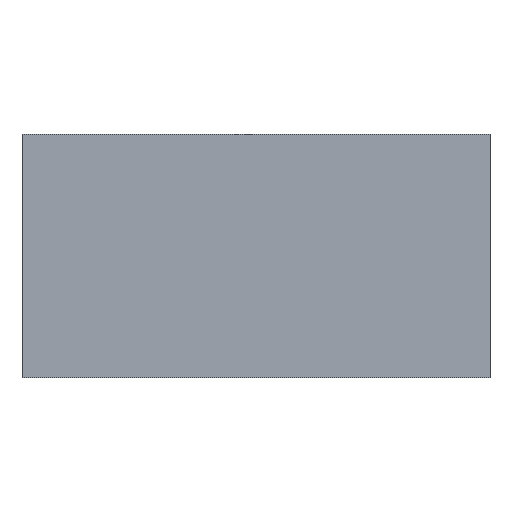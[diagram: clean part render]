
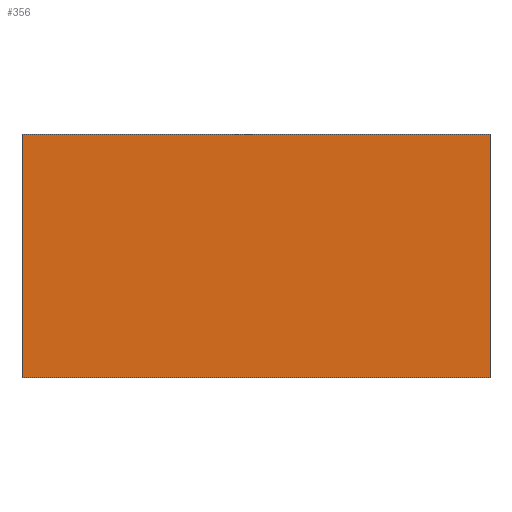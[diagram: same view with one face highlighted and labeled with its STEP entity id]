
A CAD part, top view. The second image highlights one B-rep face of the part: STEP entity #356.
In plain terms, the highlighted planar face has unit normal (0, 0, 1).
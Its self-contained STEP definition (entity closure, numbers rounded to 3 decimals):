
#42 = VERTEX_POINT('',#43);
#43 = CARTESIAN_POINT('',(0.,0.,0.6));
#50 = PLANE('',#51);
#51 = AXIS2_PLACEMENT_3D('',#52,#53,#54);
#52 = CARTESIAN_POINT('',(0.,0.,0.));
#53 = DIRECTION('',(1.,0.,-0.));
#54 = DIRECTION('',(0.,0.,1.));
#62 = PLANE('',#63);
#63 = AXIS2_PLACEMENT_3D('',#64,#65,#66);
#64 = CARTESIAN_POINT('',(0.,0.,0.));
#65 = DIRECTION('',(-0.,1.,0.));
#66 = DIRECTION('',(0.,0.,1.));
#103 = VERTEX_POINT('',#104);
#104 = CARTESIAN_POINT('',(0.,12.3,0.6));
#118 = PLANE('',#119);
#119 = AXIS2_PLACEMENT_3D('',#120,#121,#122);
#120 = CARTESIAN_POINT('',(0.,12.3,0.));
#121 = DIRECTION('',(-0.,1.,0.));
#122 = DIRECTION('',(0.,0.,1.));
#130 = EDGE_CURVE('',#42,#103,#131,.T.);
#131 = SURFACE_CURVE('',#132,(#136,#143),.PCURVE_S1.);
#132 = LINE('',#133,#134);
#133 = CARTESIAN_POINT('',(0.,0.,0.6));
#134 = VECTOR('',#135,1.);
#135 = DIRECTION('',(-0.,1.,0.));
#136 = PCURVE('',#50,#137);
#137 = DEFINITIONAL_REPRESENTATION('',(#138),#142);
#138 = LINE('',#139,#140);
#139 = CARTESIAN_POINT('',(0.6,0.));
#140 = VECTOR('',#141,1.);
#141 = DIRECTION('',(0.,-1.));
#142 = ( GEOMETRIC_REPRESENTATION_CONTEXT(2) 
PARAMETRIC_REPRESENTATION_CONTEXT() REPRESENTATION_CONTEXT('2D SPACE',''
  ) );
#143 = PCURVE('',#144,#149);
#144 = PLANE('',#145);
#145 = AXIS2_PLACEMENT_3D('',#146,#147,#148);
#146 = CARTESIAN_POINT('',(0.,0.,0.6));
#147 = DIRECTION('',(0.,0.,1.));
#148 = DIRECTION('',(1.,0.,-0.));
#149 = DEFINITIONAL_REPRESENTATION('',(#150),#154);
#150 = LINE('',#151,#152);
#151 = CARTESIAN_POINT('',(0.,0.));
#152 = VECTOR('',#153,1.);
#153 = DIRECTION('',(0.,1.));
#154 = ( GEOMETRIC_REPRESENTATION_CONTEXT(2) 
PARAMETRIC_REPRESENTATION_CONTEXT() REPRESENTATION_CONTEXT('2D SPACE',''
  ) );
#162 = VERTEX_POINT('',#163);
#163 = CARTESIAN_POINT('',(23.6,0.,0.6));
#170 = PLANE('',#171);
#171 = AXIS2_PLACEMENT_3D('',#172,#173,#174);
#172 = CARTESIAN_POINT('',(23.6,0.,0.));
#173 = DIRECTION('',(1.,0.,-0.));
#174 = DIRECTION('',(0.,0.,1.));
#213 = VERTEX_POINT('',#214);
#214 = CARTESIAN_POINT('',(23.6,12.3,0.6));
#235 = EDGE_CURVE('',#162,#213,#236,.T.);
#236 = SURFACE_CURVE('',#237,(#241,#248),.PCURVE_S1.);
#237 = LINE('',#238,#239);
#238 = CARTESIAN_POINT('',(23.6,0.,0.6));
#239 = VECTOR('',#240,1.);
#240 = DIRECTION('',(-0.,1.,0.));
#241 = PCURVE('',#170,#242);
#242 = DEFINITIONAL_REPRESENTATION('',(#243),#247);
#243 = LINE('',#244,#245);
#244 = CARTESIAN_POINT('',(0.6,0.));
#245 = VECTOR('',#246,1.);
#246 = DIRECTION('',(0.,-1.));
#247 = ( GEOMETRIC_REPRESENTATION_CONTEXT(2) 
PARAMETRIC_REPRESENTATION_CONTEXT() REPRESENTATION_CONTEXT('2D SPACE',''
  ) );
#248 = PCURVE('',#144,#249);
#249 = DEFINITIONAL_REPRESENTATION('',(#250),#254);
#250 = LINE('',#251,#252);
#251 = CARTESIAN_POINT('',(23.6,0.));
#252 = VECTOR('',#253,1.);
#253 = DIRECTION('',(0.,1.));
#254 = ( GEOMETRIC_REPRESENTATION_CONTEXT(2) 
PARAMETRIC_REPRESENTATION_CONTEXT() REPRESENTATION_CONTEXT('2D SPACE',''
  ) );
#281 = EDGE_CURVE('',#42,#162,#282,.T.);
#282 = SURFACE_CURVE('',#283,(#287,#294),.PCURVE_S1.);
#283 = LINE('',#284,#285);
#284 = CARTESIAN_POINT('',(0.,0.,0.6));
#285 = VECTOR('',#286,1.);
#286 = DIRECTION('',(1.,0.,-0.));
#287 = PCURVE('',#62,#288);
#288 = DEFINITIONAL_REPRESENTATION('',(#289),#293);
#289 = LINE('',#290,#291);
#290 = CARTESIAN_POINT('',(0.6,0.));
#291 = VECTOR('',#292,1.);
#292 = DIRECTION('',(0.,1.));
#293 = ( GEOMETRIC_REPRESENTATION_CONTEXT(2) 
PARAMETRIC_REPRESENTATION_CONTEXT() REPRESENTATION_CONTEXT('2D SPACE',''
  ) );
#294 = PCURVE('',#144,#295);
#295 = DEFINITIONAL_REPRESENTATION('',(#296),#300);
#296 = LINE('',#297,#298);
#297 = CARTESIAN_POINT('',(0.,0.));
#298 = VECTOR('',#299,1.);
#299 = DIRECTION('',(1.,0.));
#300 = ( GEOMETRIC_REPRESENTATION_CONTEXT(2) 
PARAMETRIC_REPRESENTATION_CONTEXT() REPRESENTATION_CONTEXT('2D SPACE',''
  ) );
#328 = EDGE_CURVE('',#103,#213,#329,.T.);
#329 = SURFACE_CURVE('',#330,(#334,#341),.PCURVE_S1.);
#330 = LINE('',#331,#332);
#331 = CARTESIAN_POINT('',(0.,12.3,0.6));
#332 = VECTOR('',#333,1.);
#333 = DIRECTION('',(1.,0.,-0.));
#334 = PCURVE('',#118,#335);
#335 = DEFINITIONAL_REPRESENTATION('',(#336),#340);
#336 = LINE('',#337,#338);
#337 = CARTESIAN_POINT('',(0.6,0.));
#338 = VECTOR('',#339,1.);
#339 = DIRECTION('',(0.,1.));
#340 = ( GEOMETRIC_REPRESENTATION_CONTEXT(2) 
PARAMETRIC_REPRESENTATION_CONTEXT() REPRESENTATION_CONTEXT('2D SPACE',''
  ) );
#341 = PCURVE('',#144,#342);
#342 = DEFINITIONAL_REPRESENTATION('',(#343),#347);
#343 = LINE('',#344,#345);
#344 = CARTESIAN_POINT('',(0.,12.3));
#345 = VECTOR('',#346,1.);
#346 = DIRECTION('',(1.,0.));
#347 = ( GEOMETRIC_REPRESENTATION_CONTEXT(2) 
PARAMETRIC_REPRESENTATION_CONTEXT() REPRESENTATION_CONTEXT('2D SPACE',''
  ) );
#356 = ADVANCED_FACE('',(#357),#144,.T.);
#357 = FACE_BOUND('',#358,.T.);
#358 = EDGE_LOOP('',(#359,#360,#361,#362));
#359 = ORIENTED_EDGE('',*,*,#130,.F.);
#360 = ORIENTED_EDGE('',*,*,#281,.T.);
#361 = ORIENTED_EDGE('',*,*,#235,.T.);
#362 = ORIENTED_EDGE('',*,*,#328,.F.);
